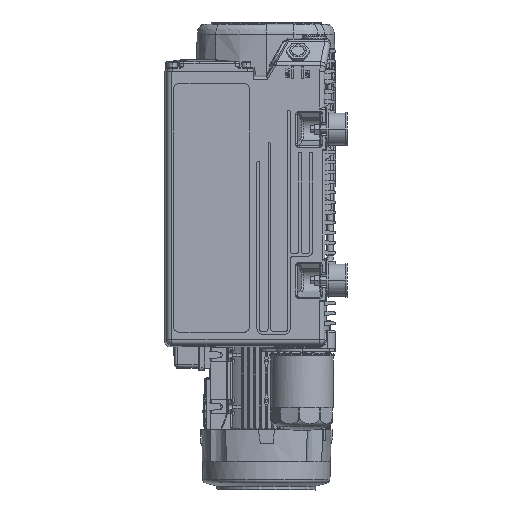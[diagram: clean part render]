
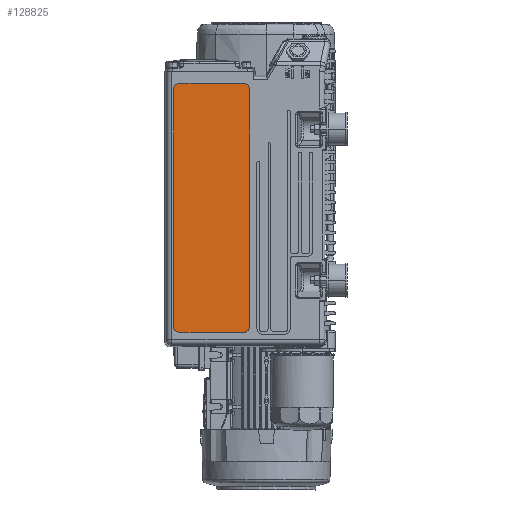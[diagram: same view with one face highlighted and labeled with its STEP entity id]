
A CAD part, left-side view. The second image highlights one B-rep face of the part: STEP entity #128825.
In plain terms, the highlighted planar face has unit normal (-1, 0, 0).
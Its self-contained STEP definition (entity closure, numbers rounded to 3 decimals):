
#117949=DIRECTION('',(0.,0.,1.));
#117950=VECTOR('',#117949,354.);
#117951=CARTESIAN_POINT('',(-275.943,42.118,
-343.475));
#117952=LINE('',#117951,#117950);
#117953=CARTESIAN_POINT('',(-275.943,50.118,
-343.475));
#117954=DIRECTION('',(-1.,0.,0.));
#117955=DIRECTION('',(0.,0.,-1.));
#117956=AXIS2_PLACEMENT_3D('',#117953,#117954,#117955);
#117958=DIRECTION('',(0.,-1.,0.));
#117959=VECTOR('',#117958,97.);
#117960=CARTESIAN_POINT('',(-275.943,147.118,
-351.475));
#117961=LINE('',#117960,#117959);
#117962=CARTESIAN_POINT('',(-275.943,147.118,
-343.475));
#117963=DIRECTION('',(-1.,0.,0.));
#117964=DIRECTION('',(0.,1.,0.));
#117965=AXIS2_PLACEMENT_3D('',#117962,#117963,#117964);
#117967=DIRECTION('',(0.,0.,-1.));
#117968=VECTOR('',#117967,354.);
#117969=CARTESIAN_POINT('',(-275.943,155.118,
10.525));
#117970=LINE('',#117969,#117968);
#117971=CARTESIAN_POINT('',(-275.943,147.118,
10.525));
#117972=DIRECTION('',(-1.,0.,0.));
#117973=DIRECTION('',(0.,0.,1.));
#117974=AXIS2_PLACEMENT_3D('',#117971,#117972,#117973);
#117976=DIRECTION('',(0.,1.,0.));
#117977=VECTOR('',#117976,97.);
#117978=CARTESIAN_POINT('',(-275.943,50.118,
18.525));
#117979=LINE('',#117978,#117977);
#117980=CARTESIAN_POINT('',(-275.943,50.118,
10.525));
#117981=DIRECTION('',(-1.,0.,0.));
#117982=DIRECTION('',(0.,-1.,0.));
#117983=AXIS2_PLACEMENT_3D('',#117980,#117981,#117982);
#123764=CARTESIAN_POINT('',(-275.943,42.118,
-343.475));
#123765=CARTESIAN_POINT('',(-275.943,42.118,
10.525));
#123766=VERTEX_POINT('',#123764);
#123767=VERTEX_POINT('',#123765);
#123768=CARTESIAN_POINT('',(-275.943,50.118,
18.525));
#123769=VERTEX_POINT('',#123768);
#123770=CARTESIAN_POINT('',(-275.943,147.118,
18.525));
#123771=VERTEX_POINT('',#123770);
#123772=CARTESIAN_POINT('',(-275.943,155.118,
10.525));
#123773=VERTEX_POINT('',#123772);
#123774=CARTESIAN_POINT('',(-275.943,155.118,
-343.475));
#123775=VERTEX_POINT('',#123774);
#123776=CARTESIAN_POINT('',(-275.943,147.118,
-351.475));
#123777=VERTEX_POINT('',#123776);
#123778=CARTESIAN_POINT('',(-275.943,50.118,
-351.475));
#123779=VERTEX_POINT('',#123778);
#128802=CARTESIAN_POINT('',(-275.943,62.985,
38.525));
#128803=DIRECTION('',(-1.,0.,0.));
#128804=DIRECTION('',(0.,0.,1.));
#128805=AXIS2_PLACEMENT_3D('',#128802,#128803,#128804);
#128806=PLANE('',#128805);
#128808=ORIENTED_EDGE('',*,*,#128807,.F.);
#128810=ORIENTED_EDGE('',*,*,#128809,.F.);
#128812=ORIENTED_EDGE('',*,*,#128811,.F.);
#128814=ORIENTED_EDGE('',*,*,#128813,.F.);
#128816=ORIENTED_EDGE('',*,*,#128815,.F.);
#128818=ORIENTED_EDGE('',*,*,#128817,.F.);
#128820=ORIENTED_EDGE('',*,*,#128819,.F.);
#128822=ORIENTED_EDGE('',*,*,#128821,.F.);
#128823=EDGE_LOOP('',(#128808,#128810,#128812,#128814,#128816,#128818,#128820,
#128822));
#128824=FACE_OUTER_BOUND('',#128823,.F.);
#128825=ADVANCED_FACE('',(#128824),#128806,.T.);
#117957=CIRCLE('',#117956,8.);
#117966=CIRCLE('',#117965,8.);
#117975=CIRCLE('',#117974,8.);
#117984=CIRCLE('',#117983,8.);
#128807=EDGE_CURVE('',#123766,#123767,#117952,.T.);
#128809=EDGE_CURVE('',#123779,#123766,#117957,.T.);
#128811=EDGE_CURVE('',#123777,#123779,#117961,.T.);
#128813=EDGE_CURVE('',#123775,#123777,#117966,.T.);
#128815=EDGE_CURVE('',#123773,#123775,#117970,.T.);
#128817=EDGE_CURVE('',#123771,#123773,#117975,.T.);
#128819=EDGE_CURVE('',#123769,#123771,#117979,.T.);
#128821=EDGE_CURVE('',#123767,#123769,#117984,.T.);
